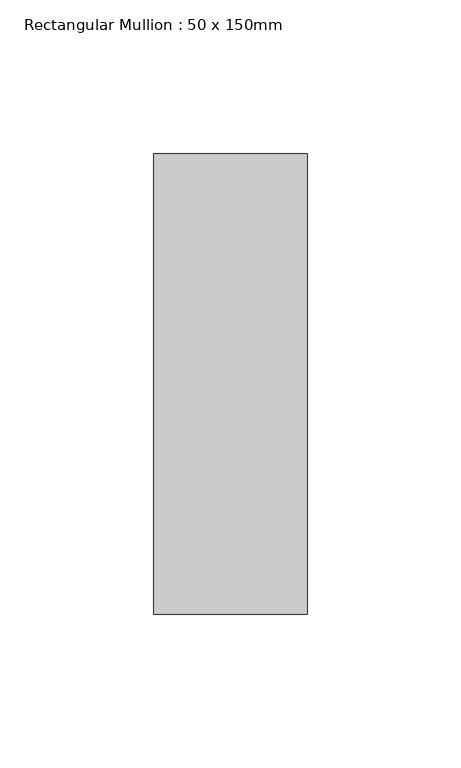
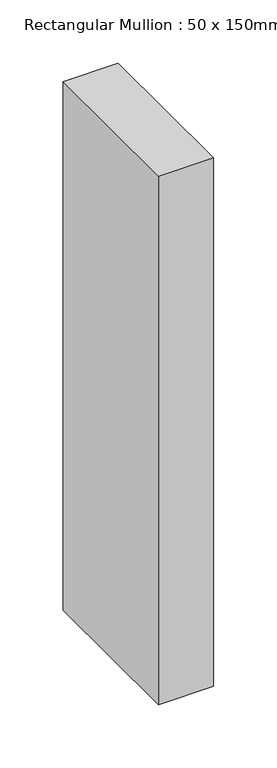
"""IFC4 building model written with IfcOpenShell, lengths in millimetres: member geometry, Rectangular Mullion : 50 x 150mm."""

from ifc_helpers import new_model, si_unit, frame, origin, place, context, project, spatial, polyline, outline, extrude, source, transform, mapped, element, save


def rectangular_mullion_50_x_150mm_6b054e58(model_context):
    return source(origin(), model_context, "Body", "SweptSolid", [
        extrude(outline(polyline([(0.0, 75.0), (0.0, -75.0), (-50.0, -75.0), (-50.0, 75.0), (0.0, 75.0)])), frame((0.0, 0.0, -508.3333331), z_axis=(0.0, 0.0, 1.0), x_axis=(1.0, 0.0, 0.0)), (0.0, 0.0, 1.0), 508.3333331),
    ])


if __name__ == "__main__":
    model = new_model("IFC4")
    model_context = context("Model", 3, world=origin())
    ifc_project = project(units=[si_unit("LENGTHUNIT", "METRE", prefix="MILLI")], contexts=[model_context])
    site = spatial("IfcSite", under=ifc_project)
    building = spatial("IfcBuilding", under=site)
    placement = place(None, origin())
    rectangular_mullion_50_x_150mm_shape = rectangular_mullion_50_x_150mm_6b054e58(model_context)
    element("IfcMember", 1, ObjectType="Rectangular Mullion : 50 x 150mm", at=placement, inside=building, context=model_context, shape_type="MappedRepresentation", body=[
        mapped(rectangular_mullion_50_x_150mm_shape, transform((0.0, 0.0, 0.0), x_axis=(1.0, 0.0, 0.0), y_axis=(0.0, 1.0, 0.0), z_axis=(0.0, 0.0, 1.0))),
    ])
    save(model, "model.ifc")
